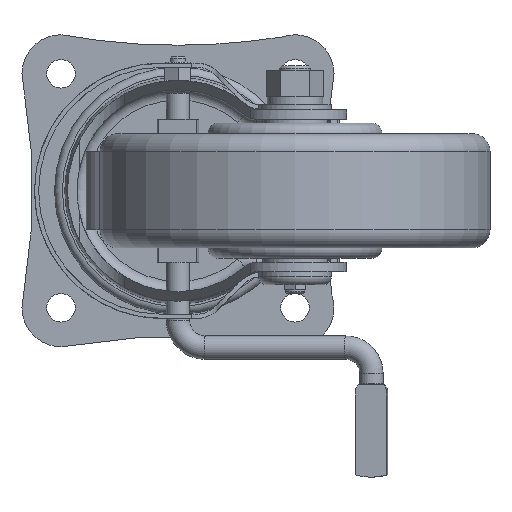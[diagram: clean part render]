
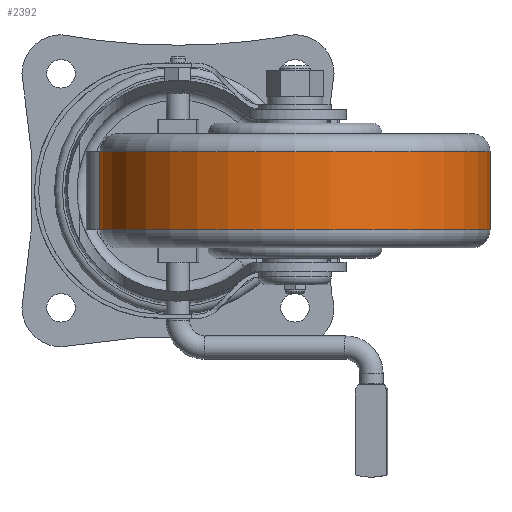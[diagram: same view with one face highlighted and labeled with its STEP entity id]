
A CAD part, front view. The second image highlights one B-rep face of the part: STEP entity #2392.
In plain terms, the highlighted cylindrical face has radius 75 mm (diameter 150 mm), a partial arc.
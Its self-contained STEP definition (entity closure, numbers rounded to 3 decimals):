
#27 = CIRCLE ( 'NONE', #8208, 75. ) ;
#39 = CARTESIAN_POINT ( 'NONE',  ( 75., 0., -15. ) ) ;
#294 = EDGE_CURVE ( 'NONE', #7813, #4634, #1032, .T. ) ;
#867 = CARTESIAN_POINT ( 'NONE',  ( -75., 0., 15. ) ) ;
#1032 = LINE ( 'NONE', #2267, #5718 ) ;
#1358 = LINE ( 'NONE', #8744, #3426 ) ;
#1408 = CARTESIAN_POINT ( 'NONE',  ( 0., 0., -15. ) ) ;
#1442 = VERTEX_POINT ( 'NONE', #39 ) ;
#1737 = CARTESIAN_POINT ( 'NONE',  ( 75., 0., 15. ) ) ;
#2181 = DIRECTION ( 'NONE',  ( 1., 0., 0. ) ) ;
#2267 = CARTESIAN_POINT ( 'NONE',  ( -75., 0., 34.804 ) ) ;
#2392 = ADVANCED_FACE ( 'NONE', ( #3660 ), #10454, .T. ) ;
#2591 = DIRECTION ( 'NONE',  ( 0., 0., 1. ) ) ;
#3056 = CARTESIAN_POINT ( 'NONE',  ( 0., 0., 15. ) ) ;
#3426 = VECTOR ( 'NONE', #2591, 1000. ) ;
#3660 = FACE_OUTER_BOUND ( 'NONE', #3666, .T. ) ;
#3666 = EDGE_LOOP ( 'NONE', ( #3879, #10742, #9463, #9876 ) ) ;
#3879 = ORIENTED_EDGE ( 'NONE', *, *, #294, .F. ) ;
#4035 = DIRECTION ( 'NONE',  ( 0., 0., 1. ) ) ;
#4137 = AXIS2_PLACEMENT_3D ( 'NONE', #7657, #10139, #4247 ) ;
#4247 = DIRECTION ( 'NONE',  ( 1., 0., 0. ) ) ;
#4634 = VERTEX_POINT ( 'NONE', #867 ) ;
#4823 = VERTEX_POINT ( 'NONE', #1737 ) ;
#5491 = CARTESIAN_POINT ( 'NONE',  ( -75., 0., -15. ) ) ;
#5661 = DIRECTION ( 'NONE',  ( 0., 0., 1. ) ) ;
#5718 = VECTOR ( 'NONE', #4035, 1000. ) ;
#6686 = DIRECTION ( 'NONE',  ( 1., 0., 0. ) ) ;
#6857 = AXIS2_PLACEMENT_3D ( 'NONE', #3056, #5661, #2181 ) ;
#7657 = CARTESIAN_POINT ( 'NONE',  ( 0., 0., 34.804 ) ) ;
#7813 = VERTEX_POINT ( 'NONE', #5491 ) ;
#7967 = EDGE_CURVE ( 'NONE', #7813, #1442, #27, .T. ) ;
#8208 = AXIS2_PLACEMENT_3D ( 'NONE', #1408, #9335, #6686 ) ;
#8744 = CARTESIAN_POINT ( 'NONE',  ( 75., 0., 34.804 ) ) ;
#9207 = EDGE_CURVE ( 'NONE', #4634, #4823, #11456, .T. ) ;
#9335 = DIRECTION ( 'NONE',  ( 0., 0., 1. ) ) ;
#9463 = ORIENTED_EDGE ( 'NONE', *, *, #9677, .T. ) ;
#9677 = EDGE_CURVE ( 'NONE', #1442, #4823, #1358, .T. ) ;
#9876 = ORIENTED_EDGE ( 'NONE', *, *, #9207, .F. ) ;
#10139 = DIRECTION ( 'NONE',  ( 0., 0., 1. ) ) ;
#10454 = CYLINDRICAL_SURFACE ( 'NONE', #4137, 75. ) ;
#10742 = ORIENTED_EDGE ( 'NONE', *, *, #7967, .T. ) ;
#11456 = CIRCLE ( 'NONE', #6857, 75. ) ;
